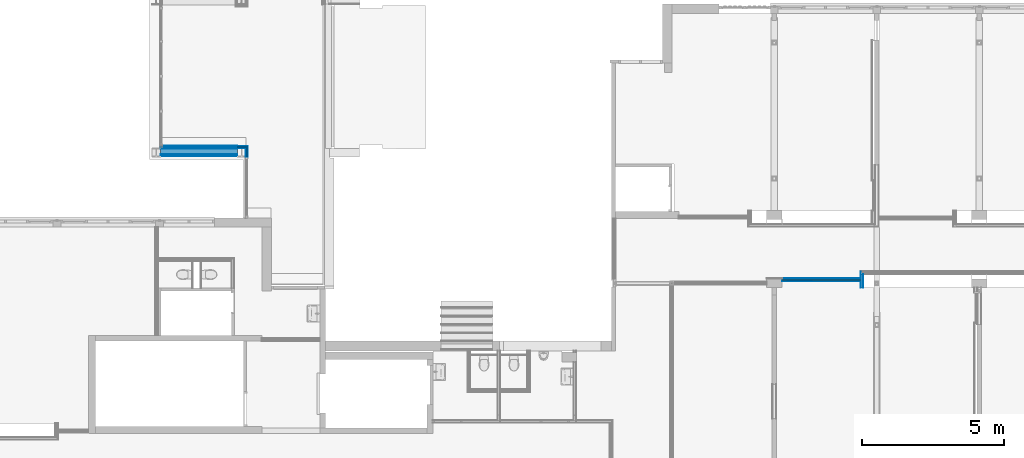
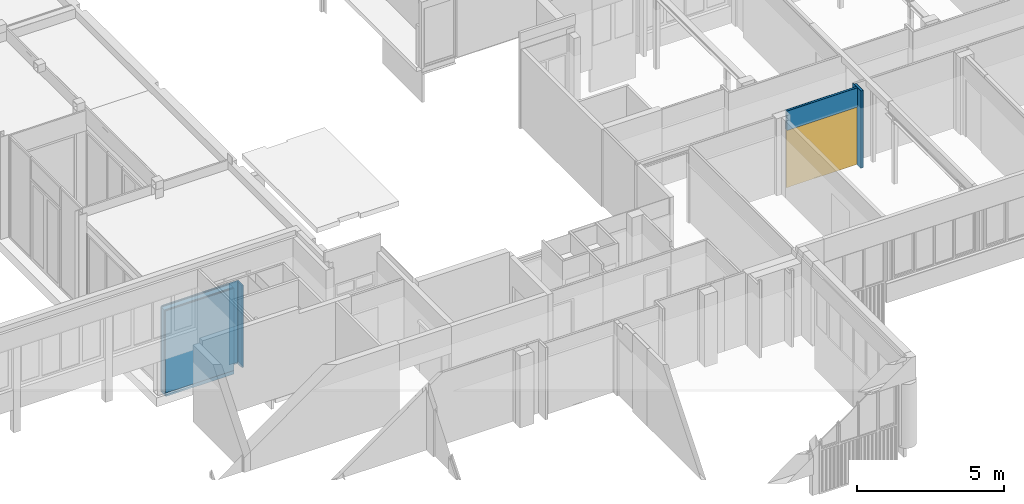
# One storey, part 62 of 99: 20 building element parts, 1 door, 1 opening, 5 elements without a shape of their own.
"""IFC2X3 building model written with IfcOpenShell, lengths in millimetres."""

from ifc_helpers import new_model, entity, si_unit, converted_unit, derived_unit, money_unit, direction, frame, origin_with_axes, place, context, subcontext, project, spatial, open_shell, faceted_brep, surface_model, material, type_object, element, fill, aggregate, save


model = new_model("IFC2X3")

# Units and contexts
model_context = context("Model", 3, precision=0.01, world=origin_with_axes(), true_north=direction((0.0, 1.0)))
body_context = subcontext(model_context, "Body", "Model", "MODEL_VIEW")
ifc_project = project(units=[si_unit("LENGTHUNIT", "METRE", prefix="MILLI"), si_unit("AREAUNIT", "SQUARE_METRE"), si_unit("VOLUMEUNIT", "CUBIC_METRE"), converted_unit("PLANEANGLEUNIT", "DEGREE", entity("IfcPlaneAngleMeasure", 0.0174532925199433), si_unit("PLANEANGLEUNIT", "RADIAN"), dimensions=[0, 0, 0, 0, 0, 0, 0]), money_unit("EUR"), converted_unit("TIMEUNIT", "Year", entity("IfcTimeMeasure", 31557600.0), si_unit("TIMEUNIT", "SECOND"), dimensions=[0, 0, 1, 0, 0, 0, 0]), si_unit("MASSUNIT", "GRAM", prefix="KILO"), si_unit("THERMODYNAMICTEMPERATUREUNIT", "DEGREE_CELSIUS"), si_unit("LUMINOUSINTENSITYUNIT", "LUMEN"), si_unit("ENERGYUNIT", "JOULE", prefix="MEGA"), derived_unit("THERMALCONDUCTANCEUNIT", [(si_unit("POWERUNIT", "WATT"), 1), (si_unit("LENGTHUNIT", "METRE"), -1), (si_unit("THERMODYNAMICTEMPERATUREUNIT", "KELVIN"), -1)]), derived_unit("SPECIFICHEATCAPACITYUNIT", [(si_unit("ENERGYUNIT", "JOULE"), 1), (si_unit("MASSUNIT", "GRAM", prefix="KILO"), -1), (si_unit("THERMODYNAMICTEMPERATUREUNIT", "KELVIN"), -1)]), derived_unit("MASSDENSITYUNIT", [(si_unit("MASSUNIT", "GRAM", prefix="KILO"), 1), (si_unit("VOLUMEUNIT", "CUBIC_METRE"), -1)])], contexts=[model_context])

# Site, building, storey
site_placement = place(None, origin_with_axes())
site = spatial("IfcSite", under=ifc_project, at=site_placement, Name="Site", CompositionType="ELEMENT")
building_placement = place(site_placement, origin_with_axes())
building = spatial("IfcBuilding", under=site, at=building_placement, Name="Naam gebouw", CompositionType="ELEMENT")
storey_placement = place(building_placement, frame((0.0, 0.0, 7650.0), z_axis=(0.0, 0.0, 1.0), x_axis=(1.0, 0.0, 0.0)))
storey = spatial("IfcBuildingStorey", under=building, at=storey_placement, Name="2e verdieping N", CompositionType="ELEMENT", Elevation=7650.0)

# Door
door_style = type_object("IfcDoorStyle", Name="D1 zl2 27", ConstructionType="NOTDEFINED", OperationType="USERDEFINED", ParameterTakesPrecedence=False, Sizeable=False)
wall_5_placement = place(storey_placement, frame((36269.99999999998, 18145.9124251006, 0.0), z_axis=(0.0, 0.0, 1.0), x_axis=(1.0, 0.0, 0.0)))
opening_placement = place(wall_5_placement, frame((1380.000000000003, 0.0, 0.0), z_axis=(0.0, 0.0, 1.0), x_axis=(1.0, 0.0, 0.0)))
door_placement = place(opening_placement, frame((1380.000000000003, 0.0, 0.0), z_axis=(0.0, 0.0, 1.0), x_axis=(-1.0, 0.0, 0.0)))
door = element("IfcDoor", 1, at=door_placement, inside=storey, type_object=door_style, Name="_Merk-x", ObjectType="DOOR", OverallHeight=2400.0, OverallWidth=2760.0, context=body_context, shape_type="SurfaceModel", body=[
    faceted_brep([(0.0, 10.00000000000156, 0.0), (30.00000000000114, 10.00000000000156, 0.0), (30.00000000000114, -9.99999999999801, 0.0), (0.0, -9.99999999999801, 0.0), (0.0, 10.00000000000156, 2369.999999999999), (30.00000000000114, 10.00000000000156, 2369.999999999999), (30.00000000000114, 10.00000000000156, 30.00000000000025), (30.00000000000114, -9.99999999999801, 30.00000000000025), (30.00000000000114, -9.99999999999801, 2369.999999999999), (0.0, -9.99999999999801, 2369.999999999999)], [[[0, 1, 2, 3]], [[0, 4, 5, 6, 1]], [[1, 6, 7, 2]], [[3, 2, 7, 8, 9]], [[4, 0, 3, 9]], [[5, 4, 9, 8]], [[6, 5, 8, 7]]]),
    faceted_brep([(1700.000000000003, -8.999999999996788, 0.0), (1700.000000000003, -9.000000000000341, 2369.999999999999), (1700.000000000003, -9.99999999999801, 2369.999999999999), (1700.000000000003, -9.99999999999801, 0.0), (1683.000000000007, -9.000000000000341, 2369.999999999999), (1683.000000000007, -8.999999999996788, 0.0), (1683.000000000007, 10.00000000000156, 2369.999999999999), (1670.000000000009, 10.00000000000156, 2369.999999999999), (1670.000000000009, -9.99999999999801, 2369.999999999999), (1670.000000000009, -9.99999999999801, 0.0), (1670.000000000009, -9.99999999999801, 30.00000000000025), (1670.000000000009, 10.00000000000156, 0.0), (1683.000000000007, 10.00000000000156, 0.0), (1670.000000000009, 10.00000000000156, 30.00000000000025)], [[[0, 1, 2, 3]], [[4, 1, 0, 5]], [[4, 6, 7, 8, 2, 1]], [[9, 3, 2, 8, 10]], [[5, 0, 3, 9, 11, 12]], [[6, 4, 5, 12]], [[6, 12, 11, 13, 7]], [[13, 10, 8, 7]], [[11, 9, 10, 13]]]),
    faceted_brep([(30.00000000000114, 10.00000000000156, 30.00000000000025), (30.00000000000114, 10.00000000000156, 0.0), (30.00000000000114, -9.99999999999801, 0.0), (30.00000000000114, -9.99999999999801, 30.00000000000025), (1670.000000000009, 10.00000000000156, 30.00000000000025), (1670.000000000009, 10.00000000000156, 0.0), (1670.000000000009, -9.99999999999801, 0.0), (1670.000000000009, -9.99999999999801, 30.00000000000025)], [[[0, 1, 2, 3]], [[0, 4, 5, 1]], [[1, 5, 6, 2]], [[3, 2, 6, 7]], [[4, 0, 3, 7]], [[5, 4, 7, 6]]]),
    faceted_brep([(2760.000000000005, 10.00000000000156, 0.0), (2760.000000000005, 10.00000000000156, 2369.999999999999), (2760.000000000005, -9.99999999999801, 2369.999999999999), (2760.000000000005, -9.99999999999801, 0.0), (2730.000000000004, 10.00000000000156, 0.0), (2730.000000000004, 10.00000000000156, 30.00000000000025), (2730.000000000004, 10.00000000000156, 2369.999999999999), (2730.000000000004, -9.99999999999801, 2369.999999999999), (2730.000000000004, -9.99999999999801, 30.00000000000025), (2730.000000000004, -9.99999999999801, 0.0)], [[[0, 1, 2, 3]], [[0, 4, 5, 6, 1]], [[1, 6, 7, 2]], [[3, 2, 7, 8, 9]], [[4, 0, 3, 9]], [[5, 4, 9, 8]], [[6, 5, 8, 7]]]),
    faceted_brep([(2617.000000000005, -9.000000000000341, 2369.999999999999), (2600.000000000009, -9.000000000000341, 2369.999999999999), (2600.000000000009, -9.99999999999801, 2369.999999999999), (2630.000000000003, -9.99999999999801, 2369.999999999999), (2630.000000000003, 10.00000000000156, 2369.999999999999), (2617.000000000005, 10.00000000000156, 2369.999999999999), (2617.000000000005, -9.000000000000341, 0.0), (2600.000000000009, -9.000000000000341, 0.0), (2600.000000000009, -9.99999999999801, 0.0), (2630.000000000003, -9.99999999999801, 0.0), (2630.000000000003, -9.99999999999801, 30.00000000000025), (2630.000000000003, 10.00000000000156, 30.00000000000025), (2617.000000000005, 10.00000000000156, 0.0), (2630.000000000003, 10.00000000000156, 0.0)], [[[0, 1, 2, 3, 4, 5]], [[1, 0, 6, 7]], [[1, 7, 8, 2]], [[8, 9, 10, 3, 2]], [[4, 3, 10, 11]], [[12, 5, 4, 11, 13]], [[0, 5, 12, 6]], [[6, 12, 13, 9, 8, 7]], [[11, 10, 9, 13]]]),
    faceted_brep([(2630.000000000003, 10.00000000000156, 30.00000000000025), (2630.000000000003, 10.00000000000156, 0.0), (2630.000000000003, -9.99999999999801, 0.0), (2630.000000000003, -9.99999999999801, 30.00000000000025), (2730.000000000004, 10.00000000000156, 30.00000000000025), (2730.000000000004, 10.00000000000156, 0.0), (2730.000000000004, -9.99999999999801, 0.0), (2730.000000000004, -9.99999999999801, 30.00000000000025)], [[[0, 1, 2, 3]], [[0, 4, 5, 1]], [[1, 5, 6, 2]], [[3, 2, 6, 7]], [[4, 0, 3, 7]], [[5, 4, 7, 6]]]),
    faceted_brep([(1683.000000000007, 10.00000000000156, 2387.0), (1683.000000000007, 10.00000000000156, 2369.999999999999), (1670.000000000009, 10.00000000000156, 2369.999999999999), (30.00000000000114, 10.00000000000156, 2369.999999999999), (0.0, 10.00000000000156, 2369.999999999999), (0.0, 10.00000000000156, 2400.0), (2760.000000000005, 10.00000000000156, 2400.0), (2760.000000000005, 10.00000000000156, 2369.999999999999), (2730.000000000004, 10.00000000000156, 2369.999999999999), (2630.000000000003, 10.00000000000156, 2369.999999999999), (2617.000000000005, 10.00000000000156, 2369.999999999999), (2617.000000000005, 10.00000000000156, 2387.0), (1683.000000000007, -9.000000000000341, 2387.0), (1683.000000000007, -9.000000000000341, 2369.999999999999), (2600.000000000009, -9.000000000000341, 2369.999999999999), (2600.000000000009, -9.99999999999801, 2369.999999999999), (1700.000000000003, -9.99999999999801, 2369.999999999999), (1670.000000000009, -9.99999999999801, 2369.999999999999), (30.00000000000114, -9.99999999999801, 2369.999999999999), (0.0, -9.99999999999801, 2369.999999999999), (0.0, -9.99999999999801, 2400.0), (2760.000000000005, -9.99999999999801, 2400.0), (2760.000000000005, -9.99999999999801, 2369.999999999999), (2730.000000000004, -9.99999999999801, 2369.999999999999), (2617.000000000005, -9.000000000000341, 2369.999999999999), (2630.000000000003, -9.99999999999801, 2369.999999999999), (2617.000000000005, -9.000000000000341, 2387.0)], [[[0, 1, 2, 3, 4, 5, 6, 7, 8, 9, 10, 11]], [[1, 0, 12, 13]], [[13, 14, 15, 16, 17, 2, 1]], [[2, 17, 18, 3]], [[3, 18, 19, 4]], [[4, 19, 20, 5]], [[5, 20, 21, 6]], [[6, 21, 22, 7]], [[7, 22, 23, 8]], [[24, 10, 9, 8, 23, 25, 15, 14]], [[11, 10, 24, 26]], [[0, 11, 26, 12]], [[24, 14, 13, 12, 26]], [[23, 22, 21, 20, 19, 18, 17, 16, 15, 25]]]),
    faceted_brep([(2617.000000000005, 1.000000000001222, 0.0), (2617.000000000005, -9.000000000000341, 0.0), (1683.000000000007, -8.999999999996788, 0.0), (1683.000000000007, 1.000000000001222, 0.0), (2617.000000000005, 1.000000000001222, 2387.0), (2617.000000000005, -9.000000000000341, 2387.0), (1683.000000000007, -9.000000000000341, 2387.0), (1683.000000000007, 1.000000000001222, 2387.0)], [[[0, 1, 2, 3]], [[4, 5, 1, 0]], [[1, 5, 6, 2]], [[3, 2, 6, 7]], [[0, 3, 7, 4]], [[7, 6, 5, 4]]]),
    surface_model("IfcShellBasedSurfaceModel", [(30.00000000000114, 9.000000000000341, 30.00000000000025), (30.00000000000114, 9.000000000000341, 2369.999999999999), (1670.000000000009, 9.000000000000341, 2369.999999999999), (1670.000000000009, 9.000000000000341, 30.00000000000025)], [open_shell([[[0, 1, 2, 3]]])]),
    surface_model("IfcShellBasedSurfaceModel", [(30.00000000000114, 1.000000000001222, 30.00000000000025), (1670.000000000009, 1.000000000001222, 30.00000000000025), (1670.000000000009, 1.000000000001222, 2369.999999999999), (30.00000000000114, 1.000000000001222, 2369.999999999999)], [open_shell([[[0, 1, 2, 3]]])]),
    surface_model("IfcShellBasedSurfaceModel", [(2630.000000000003, 9.000000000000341, 30.00000000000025), (2630.000000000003, 9.000000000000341, 2369.999999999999), (2730.000000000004, 9.000000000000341, 2369.999999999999), (2730.000000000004, 9.000000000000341, 30.00000000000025)], [open_shell([[[0, 1, 2, 3]]])]),
    surface_model("IfcShellBasedSurfaceModel", [(2630.000000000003, 1.000000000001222, 30.00000000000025), (2730.000000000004, 1.000000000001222, 30.00000000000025), (2730.000000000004, 1.000000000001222, 2369.999999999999), (2630.000000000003, 1.000000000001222, 2369.999999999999)], [open_shell([[[0, 1, 2, 3]]])]),
])

# Wall, building element parts
wall_type_1 = type_object("IfcWallType", Name="Basic Wall:31_WA_ALU_PANEEL", PredefinedType="STANDARD")
wall_1_placement = place(storey_placement, frame((17473.50000001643, 22808.41242626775, -3500.0), z_axis=(0.0, 0.0, 1.0), x_axis=(-1.0, 0.0, 0.0)))
wall_1 = element("IfcWall", 2, at=wall_1_placement, inside=storey, type_object=wall_type_1, Name="Basic Wall:31_WA_ALU_PANEEL")
ifc_material_1 = material(Name="isolatie_080_1-100")
building_element_part_1_placement = place(wall_1_placement, origin_with_axes())
building_element_part_1 = element("IfcBuildingElementPart", 3, at=building_element_part_1_placement, material=ifc_material_1, Name="isolatie_080_1-100", context=body_context, shape_type="Brep", body=[
    faceted_brep([(332.4999999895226, 30.00000002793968, 0.0), (332.4999999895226, -29.99999997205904, 0.0), (30.00000003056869, -29.99999997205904, 0.0), (30.00000002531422, 30.00000002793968, 0.0), (332.4999999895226, 30.00000002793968, 3399.999999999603), (332.4999999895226, -29.99999997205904, 3399.999999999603), (30.00000003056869, -29.99999997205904, 3399.999999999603), (30.00000002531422, 30.00000002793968, 3399.999999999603)], [[[0, 1, 2, 3]], [[0, 4, 5, 1]], [[1, 5, 6, 2]], [[3, 2, 6, 7]], [[4, 0, 3, 7]], [[5, 4, 7, 6]]]),
])
ifc_material_2 = material(Name="Aluminum geanodiseerd RAL 7024")
building_element_part_2_placement = place(wall_1_placement, origin_with_axes())
building_element_part_2 = element("IfcBuildingElementPart", 4, at=building_element_part_2_placement, material=ifc_material_2, Name="Aluminum geanodiseerd RAL 7024", context=body_context, shape_type="Brep", body=[
    faceted_brep([(332.4999999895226, -29.99999997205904, 0.0), (332.4999999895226, -32.49999997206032, 0.0), (-29.99999996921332, -32.49999997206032, 0.0), (-29.99999996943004, -29.99999997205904, 0.0), (332.4999999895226, -29.99999997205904, 3399.999999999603), (332.4999999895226, -32.49999997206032, 3399.999999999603), (-29.99999996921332, -32.49999997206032, 3399.999999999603), (-29.99999996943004, -29.99999997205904, 3399.999999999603)], [[[0, 1, 2, 3]], [[0, 4, 5, 1]], [[1, 5, 6, 2]], [[3, 2, 6, 7]], [[4, 0, 3, 7]], [[5, 4, 7, 6]]]),
])
building_element_part_3_placement = place(wall_1_placement, origin_with_axes())
building_element_part_3 = element("IfcBuildingElementPart", 5, at=building_element_part_3_placement, material=ifc_material_2, Name="Aluminum geanodiseerd RAL 7024", context=body_context, shape_type="Brep", body=[
    faceted_brep([(332.4999999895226, 32.50000002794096, 0.0), (332.4999999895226, 30.00000002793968, 0.0), (32.5000000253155, 30.00000002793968, 0.0), (32.50000002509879, 32.50000002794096, 0.0), (332.4999999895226, 32.50000002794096, 3399.999999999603), (332.4999999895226, 30.00000002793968, 3399.999999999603), (32.5000000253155, 30.00000002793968, 3399.999999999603), (32.50000002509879, 32.50000002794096, 3399.999999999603)], [[[0, 1, 2, 3]], [[0, 4, 5, 1]], [[1, 5, 6, 2]], [[3, 2, 6, 7]], [[4, 0, 3, 7]], [[5, 4, 7, 6]]]),
])
aggregate(wall_1, [building_element_part_1, building_element_part_2, building_element_part_3])

wall_2_placement = place(storey_placement, frame((17473.50000004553, 22475.91242630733, -3500.0), z_axis=(0.0, 0.0, 1.0), x_axis=(0.0, 1.0, 0.0)))
wall_2 = element("IfcWall", 6, at=wall_2_placement, inside=storey, type_object=wall_type_1, Name="Basic Wall:31_WA_ALU_PANEEL")
building_element_part_4_placement = place(wall_2_placement, origin_with_axes())
building_element_part_4 = element("IfcBuildingElementPart", 7, at=building_element_part_4_placement, material=ifc_material_2, Name="Aluminum geanodiseerd RAL 7024", context=body_context, shape_type="Brep", body=[
    faceted_brep([(302.4999999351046, 30.0000000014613, 0.0), (2.62545540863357e-09, 30.00000002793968, 0.0), (2.845723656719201e-09, 32.50000002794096, 0.0), (302.4999999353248, 32.50000000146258, 0.0), (302.4999999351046, 30.0000000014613, 3399.999999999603), (2.62545540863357e-09, 30.00000002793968, 3399.999999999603), (2.845723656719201e-09, 32.50000002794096, 3399.999999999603), (302.4999999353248, 32.50000000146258, 3399.999999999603)], [[[0, 1, 2, 3]], [[4, 5, 1, 0]], [[2, 1, 5, 6]], [[3, 2, 6, 7]], [[3, 7, 4, 0]], [[7, 6, 5, 4]]]),
])
building_element_part_5_placement = place(wall_2_placement, origin_with_axes())
building_element_part_5 = element("IfcBuildingElementPart", 8, at=building_element_part_5_placement, material=ifc_material_2, Name="Aluminum geanodiseerd RAL 7024", context=body_context, shape_type="Brep", body=[
    faceted_brep([(364.9999999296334, -32.50000000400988, 0.0), (-2.845723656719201e-09, -32.49999997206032, 0.0), (-2.62545540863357e-09, -29.99999997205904, 0.0), (364.9999999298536, -30.0000000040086, 0.0), (364.9999999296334, -32.50000000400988, 3399.999999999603), (-2.845723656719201e-09, -32.49999997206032, 3399.999999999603), (-2.62545540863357e-09, -29.99999997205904, 3399.999999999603), (364.9999999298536, -30.0000000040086, 3399.999999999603)], [[[0, 1, 2, 3]], [[4, 5, 1, 0]], [[2, 1, 5, 6]], [[3, 2, 6, 7]], [[3, 7, 4, 0]], [[7, 6, 5, 4]]]),
])
building_element_part_6_placement = place(wall_2_placement, origin_with_axes())
building_element_part_6 = element("IfcBuildingElementPart", 9, at=building_element_part_6_placement, material=ifc_material_1, Name="isolatie_080_1-100", context=body_context, shape_type="Brep", body=[
    faceted_brep([(362.4999999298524, -30.00000000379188, 0.0), (-2.62545540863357e-09, -29.99999997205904, 0.0), (2.62545540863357e-09, 30.00000002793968, 0.0), (362.4999999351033, 29.99999999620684, 0.0), (362.4999999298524, -30.00000000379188, 3399.999999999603), (-2.62545540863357e-09, -29.99999997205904, 3399.999999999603), (2.62545540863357e-09, 30.00000002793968, 3399.999999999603), (362.4999999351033, 29.99999999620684, 3399.999999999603)], [[[0, 1, 2, 3]], [[4, 5, 1, 0]], [[2, 1, 5, 6]], [[3, 2, 6, 7]], [[3, 7, 4, 0]], [[7, 6, 5, 4]]]),
])
aggregate(wall_2, [building_element_part_4, building_element_part_5, building_element_part_6])

wall_type_2 = type_object("IfcWallType", Name="Basic Wall:41_WA_houten delen vert HSB 365 breed", PredefinedType="STANDARD")
wall_3_placement = place(storey_placement, frame((14474.50000006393, 22666.41242633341, -3669.999999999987), z_axis=(0.0, 0.0, 1.0), x_axis=(1.0, 0.0, 0.0)))
wall_3 = element("IfcWall", 10, at=wall_3_placement, inside=storey, type_object=wall_type_2, Name="Basic Wall:41_WA_houten delen vert HSB 365 breed")
ifc_material_3 = material(Name="Houten delen vert")
building_element_part_7_placement = place(wall_3_placement, origin_with_axes())
building_element_part_7 = element("IfcBuildingElementPart", 11, at=building_element_part_7_placement, material=ifc_material_3, Name="Houten delen vert", context=body_context, shape_type="Brep", body=[
    faceted_brep([(0.0, 184.5000000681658, 169.999999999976), (30.00000000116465, 184.5000000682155, 169.999999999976), (30.00000000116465, 184.5000000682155, 3569.999999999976), (2666.49999996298, 184.5000000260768, 3569.999999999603), (2666.49999996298, 184.5000000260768, 0.0), (0.0, 184.5000000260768, 0.0), (0.0, 159.5000000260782, 169.999999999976), (30.00000000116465, 159.5000000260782, 169.9999999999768), (30.00000000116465, 159.5000000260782, 3569.99999999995), (2666.49999996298, 159.5000000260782, 3569.999999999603), (2666.49999996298, 159.5000000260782, 0.0), (0.0, 159.5000000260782, 0.0)], [[[0, 1, 2, 3, 4, 5]], [[1, 0, 6, 7]], [[8, 2, 1, 7]], [[2, 8, 9, 3]], [[9, 10, 4, 3]], [[10, 11, 5, 4]], [[6, 0, 5, 11]], [[7, 6, 11, 10, 9, 8]]]),
])
ifc_material_4 = material(Name="luchtspouw")
building_element_part_8_placement = place(wall_3_placement, origin_with_axes())
building_element_part_8 = element("IfcBuildingElementPart", 12, at=building_element_part_8_placement, material=ifc_material_4, Name="luchtspouw", context=body_context, shape_type="Brep", body=[
    faceted_brep([(0.0, 159.5000000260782, 169.999999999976), (30.00000000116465, 159.5000000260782, 169.9999999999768), (30.00000000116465, 159.5000000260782, 3569.99999999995), (2666.49999996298, 159.5000000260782, 3569.999999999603), (2666.49999996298, 159.5000000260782, 0.0), (0.0, 159.5000000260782, 0.0), (0.0, 137.5000000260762, 169.999999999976), (30.00000000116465, 137.5000000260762, 169.9999999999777), (30.00000000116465, 137.5000000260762, 3569.999999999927), (2666.49999996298, 137.5000000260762, 3569.999999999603), (2666.49999996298, 137.5000000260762, 0.0), (0.0, 137.5000000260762, 0.0)], [[[0, 1, 2, 3, 4, 5]], [[1, 0, 6, 7]], [[8, 2, 1, 7]], [[2, 8, 9, 3]], [[9, 10, 4, 3]], [[10, 11, 5, 4]], [[6, 0, 5, 11]], [[7, 6, 11, 10, 9, 8]]]),
])
building_element_part_9_placement = place(wall_3_placement, origin_with_axes())
building_element_part_9 = element("IfcBuildingElementPart", 13, at=building_element_part_9_placement, material=ifc_material_4, Name="luchtspouw", context=body_context, shape_type="Brep", body=[
    faceted_brep([(0.0, 137.5000000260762, 169.9999981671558), (-32.49998211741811, 137.5000000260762, 169.9999999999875), (-32.49998211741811, 137.5000000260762, 3569.99999999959), (2666.49999996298, 137.5000000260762, 3569.999999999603), (2666.49999996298, 137.5000000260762, 0.0), (0.0, 137.5000000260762, 0.0), (0.0, 109.5000000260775, 169.9999981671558), (-32.49998211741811, 109.5000000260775, 169.9999999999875), (-32.49998211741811, 109.5000000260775, 3569.99999999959), (2666.49999996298, 109.5000000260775, 3569.999999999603), (2666.49999996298, 109.5000000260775, 0.0), (0.0, 109.5000000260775, 0.0)], [[[0, 1, 2, 3, 4, 5]], [[6, 7, 1, 0]], [[7, 8, 2, 1]], [[3, 2, 8, 9]], [[9, 10, 4, 3]], [[10, 11, 5, 4]], [[6, 0, 5, 11]], [[9, 8, 7, 6, 11, 10]]]),
])
ifc_material_5 = material(Name="isolatie")
building_element_part_10_placement = place(wall_3_placement, origin_with_axes())
building_element_part_10 = element("IfcBuildingElementPart", 14, at=building_element_part_10_placement, material=ifc_material_5, Name="isolatie", context=body_context, shape_type="Brep", body=[
    faceted_brep([(0.0, 90.50000002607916, 169.9999981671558), (-32.49998211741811, 90.50000002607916, 169.9999999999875), (-32.49998211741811, 90.50000002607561, 3569.99999999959), (2666.49999996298, 90.50000002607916, 3569.999999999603), (2666.49999996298, 90.50000002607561, 0.0), (0.0, 90.50000002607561, 0.0), (0.0, -109.4999999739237, 169.9999981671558), (-32.49998211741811, -109.4999999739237, 169.9999999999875), (-32.49998211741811, -109.4999999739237, 3569.99999999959), (2666.49999996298, -109.4999999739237, 3569.999999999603), (2666.49999996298, -109.4999999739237, 0.0), (0.0, -109.4999999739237, 0.0)], [[[0, 1, 2, 3, 4, 5]], [[6, 7, 1, 0]], [[7, 8, 2, 1]], [[3, 2, 8, 9]], [[9, 10, 4, 3]], [[10, 11, 5, 4]], [[6, 0, 5, 11]], [[9, 8, 7, 6, 11, 10]]]),
])
building_element_part_11_placement = place(wall_3_placement, origin_with_axes())
building_element_part_11 = element("IfcBuildingElementPart", 15, at=building_element_part_11_placement, material=ifc_material_4, Name="luchtspouw", context=body_context, shape_type="Brep", body=[
    faceted_brep([(0.0, -109.4999999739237, 169.9999981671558), (-32.49998211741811, -109.4999999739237, 169.9999999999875), (-32.49998211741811, -109.4999999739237, 3569.99999999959), (2666.49999996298, -109.4999999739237, 3569.999999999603), (2666.49999996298, -109.4999999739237, 0.0), (0.0, -109.4999999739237, 0.0), (0.0, -137.4999999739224, 169.9999981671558), (-32.49998211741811, -137.4999999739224, 169.9999999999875), (-32.49998211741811, -137.4999999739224, 3569.99999999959), (2666.49999996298, -137.4999999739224, 3569.999999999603), (2666.49999996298, -137.4999999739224, 0.0), (0.0, -137.4999999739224, 0.0)], [[[0, 1, 2, 3, 4, 5]], [[6, 7, 1, 0]], [[7, 8, 2, 1]], [[3, 2, 8, 9]], [[9, 10, 4, 3]], [[10, 11, 5, 4]], [[6, 0, 5, 11]], [[9, 8, 7, 6, 11, 10]]]),
])
building_element_part_12_placement = place(wall_3_placement, origin_with_axes())
building_element_part_12 = element("IfcBuildingElementPart", 16, at=building_element_part_12_placement, material=ifc_material_4, Name="luchtspouw", context=body_context, shape_type="Brep", body=[
    faceted_brep([(0.0, -137.4999999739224, 169.9999981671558), (-32.49998211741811, -137.4999999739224, 169.9999999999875), (-32.49998211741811, -137.4999999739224, 3569.99999999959), (2666.49999996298, -137.4999999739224, 3569.999999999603), (2666.49999996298, -137.4999999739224, 0.0), (0.0, -137.4999999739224, 0.0), (0.0, -159.4999999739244, 169.9999981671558), (-32.49998211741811, -159.4999999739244, 169.9999999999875), (-32.49998211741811, -159.4999999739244, 3569.99999999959), (2666.49999996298, -159.4999999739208, 3569.999999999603), (2666.49999996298, -159.4999999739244, 0.0), (0.0, -159.4999999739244, 0.0)], [[[0, 1, 2, 3, 4, 5]], [[6, 7, 1, 0]], [[7, 8, 2, 1]], [[3, 2, 8, 9]], [[9, 10, 4, 3]], [[10, 11, 5, 4]], [[6, 0, 5, 11]], [[9, 8, 7, 6, 11, 10]]]),
])
ifc_material_6 = material(Name="Oriented Strand Board")
building_element_part_13_placement = place(wall_3_placement, origin_with_axes())
building_element_part_13 = element("IfcBuildingElementPart", 17, at=building_element_part_13_placement, material=ifc_material_6, Name="Oriented Strand Board", context=body_context, shape_type="Brep", body=[
    faceted_brep([(0.0, 109.5000000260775, 169.9999981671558), (-32.49998211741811, 109.5000000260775, 169.9999999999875), (-32.49998211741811, 109.5000000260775, 3569.99999999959), (2666.49999996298, 109.5000000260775, 3569.999999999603), (2666.49999996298, 109.5000000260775, 0.0), (0.0, 109.5000000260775, 0.0), (0.0, 90.50000002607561, 169.9999981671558), (-32.49998211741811, 90.50000002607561, 169.9999999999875), (-32.49998211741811, 90.50000002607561, 3569.99999999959), (2666.49999996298, 90.50000002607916, 3569.999999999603), (2666.49999996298, 90.50000002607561, 0.0), (0.0, 90.50000002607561, 0.0)], [[[0, 1, 2, 3, 4, 5]], [[6, 7, 1, 0]], [[7, 8, 2, 1]], [[3, 2, 8, 9]], [[9, 10, 4, 3]], [[10, 11, 5, 4]], [[6, 0, 5, 11]], [[9, 8, 7, 6, 11, 10]]]),
])
building_element_part_14_placement = place(wall_3_placement, origin_with_axes())
building_element_part_14 = element("IfcBuildingElementPart", 18, at=building_element_part_14_placement, material=ifc_material_3, Name="Houten delen vert", context=body_context, shape_type="Brep", body=[
    faceted_brep([(2666.49999996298, -184.499999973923, 3569.999999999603), (2666.49999996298, -184.499999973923, 169.9999999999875), (2666.49999996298, -159.4999999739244, 169.9999999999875), (2666.49999996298, -159.4999999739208, 3569.999999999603), (-32.49998211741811, -184.499999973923, 169.9999999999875), (0.0, -184.499999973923, 169.9999999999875), (-32.49998211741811, -184.499999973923, 3569.99999999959), (-32.49998211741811, -159.4999999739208, 169.9999999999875), (-32.49998211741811, -159.4999999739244, 3569.99999999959)], [[[0, 1, 2, 3]], [[4, 5, 1, 0, 6]], [[7, 2, 1, 5, 4]], [[3, 2, 7, 8]], [[0, 3, 8, 6]], [[7, 4, 6, 8]]]),
])
aggregate(wall_3, [building_element_part_7, building_element_part_8, building_element_part_9, building_element_part_10, building_element_part_11, building_element_part_12, building_element_part_13, building_element_part_14])

wall_type_3 = type_object("IfcWallType", Name="Metalstud iso 100 100", PredefinedType="NOTDEFINED")
wall_4_placement = place(storey_placement, frame((39129.99999999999, 17870.91242510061, 0.0), z_axis=(0.0, 0.0, 1.0), x_axis=(0.0, 1.0, 0.0)))
wall_4 = element("IfcWall", 19, at=wall_4_placement, inside=storey, type_object=wall_type_3, Name="_Wand-x")
ifc_material_7 = material(Name="Gipsplaat")
building_element_part_15_placement = place(wall_4_placement, origin_with_axes())
building_element_part_15 = element("IfcBuildingElementPart", 20, at=building_element_part_15_placement, material=ifc_material_7, Name="Gipsplaat", context=body_context, shape_type="Brep", body=[
    faceted_brep([(562.499999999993, 100.0000000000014, 3199.999999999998), (0.0, 100.0000000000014, 3199.999999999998), (0.0, 87.49999999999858, 3199.999999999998), (562.499999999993, 87.49999999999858, 3199.999999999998), (562.499999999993, 100.0000000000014, 0.0), (0.0, 100.0000000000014, 0.0), (0.0, 87.49999999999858, 0.0), (562.499999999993, 87.49999999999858, 0.0)], [[[0, 1, 2, 3]], [[4, 5, 1, 0]], [[2, 1, 5, 6]], [[3, 2, 6, 7]], [[3, 7, 4, 0]], [[7, 6, 5, 4]]]),
])
building_element_part_16_placement = place(wall_4_placement, origin_with_axes())
building_element_part_16 = element("IfcBuildingElementPart", 21, at=building_element_part_16_placement, material=ifc_material_7, Name="Gipsplaat", context=body_context, shape_type="Brep", body=[
    faceted_brep([(474.9999999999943, 12.50000000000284, 3199.999999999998), (0.0, 12.50000000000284, 3199.999999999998), (0.0, 0.0, 3199.999999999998), (474.9999999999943, 0.0, 3199.999999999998), (474.9999999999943, 12.50000000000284, 0.0), (0.0, 12.50000000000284, 0.0), (0.0, 0.0, 0.0), (474.9999999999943, 0.0, 0.0)], [[[0, 1, 2, 3]], [[4, 5, 1, 0]], [[2, 1, 5, 6]], [[3, 2, 6, 7]], [[3, 7, 4, 0]], [[7, 6, 5, 4]]]),
])
ifc_material_8 = material(Name="Isolatie - Steenwol LSW")
building_element_part_17_placement = place(wall_4_placement, origin_with_axes())
building_element_part_17 = element("IfcBuildingElementPart", 22, at=building_element_part_17_placement, material=ifc_material_8, Name="Isolatie - Steenwol LSW", context=body_context, shape_type="Brep", body=[
    faceted_brep([(487.4999999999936, 87.49999999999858, 3199.999999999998), (0.0, 87.49999999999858, 3199.999999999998), (0.0, 12.50000000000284, 3199.999999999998), (487.4999999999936, 12.50000000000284, 3199.999999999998), (487.4999999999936, 87.49999999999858, 0.0), (0.0, 87.49999999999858, 0.0), (0.0, 12.50000000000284, 0.0), (487.4999999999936, 12.50000000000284, 0.0)], [[[0, 1, 2, 3]], [[4, 5, 1, 0]], [[2, 1, 5, 6]], [[3, 2, 6, 7]], [[3, 7, 4, 0]], [[7, 6, 5, 4]]]),
])
aggregate(wall_4, [building_element_part_15, building_element_part_16, building_element_part_17])

# Wall, opening
wall_5 = element("IfcWall", 23, at=wall_5_placement, inside=storey, type_object=wall_type_3, Name="_Wand-x")
opening = element("IfcOpeningElement", 24, at=opening_placement, cuts=wall_5, Name="_Merk-x", context=body_context, shape_type="Brep", body=[
    faceted_brep([(1380.000000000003, -10.00000000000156, 0.0), (1380.000000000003, -10.00000000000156, 2400.0), (1380.000000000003, -51.00000000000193, 2400.0), (1380.000000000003, -51.00000000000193, 0.0), (1380.000000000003, 51.00000000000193, 0.0), (1380.000000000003, 51.00000000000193, 2400.0), (-1380.000000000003, -10.00000000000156, 2400.0), (-1380.000000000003, -51.00000000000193, 2400.0), (-1380.000000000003, 51.00000000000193, 2400.0), (-1380.000000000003, -51.00000000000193, 0.0), (-1380.000000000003, -10.00000000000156, 0.0), (-1380.000000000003, 51.00000000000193, 0.0)], [[[0, 1, 2, 3]], [[1, 0, 4, 5]], [[6, 7, 2, 1, 5, 8]], [[7, 9, 3, 2]], [[0, 3, 9, 10, 11, 4]], [[5, 4, 11, 8]], [[6, 10, 9, 7]], [[10, 6, 8, 11]]]),
])

fill(opening, door)

# Building element part
building_element_part_18_placement = place(wall_5_placement, origin_with_axes())
building_element_part_18 = element("IfcBuildingElementPart", 25, at=building_element_part_18_placement, material=ifc_material_7, Name="Gipsplaat", context=body_context, shape_type="Brep", body=[
    faceted_brep([(2760.000000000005, 37.50000000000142, 2400.0), (2760.000000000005, 50.00000000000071, 2400.0), (2760.000000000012, 50.00000000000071, 3199.999999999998), (2760.000000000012, 37.50000000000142, 3199.999999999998), (0.0, 50.00000000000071, 2400.0), (0.0, 37.50000000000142, 2400.0), (0.0, 50.00000000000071, 3199.999999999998), (0.0, 37.50000000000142, 3199.999999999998)], [[[0, 1, 2, 3]], [[4, 1, 0, 5]], [[1, 4, 6, 2]], [[2, 6, 7, 3]], [[5, 0, 3, 7]], [[4, 5, 7, 6]]]),
])

building_element_part_19_placement = place(wall_5_placement, origin_with_axes())
building_element_part_19 = element("IfcBuildingElementPart", 26, at=building_element_part_19_placement, material=ifc_material_7, Name="Gipsplaat", context=body_context, shape_type="Brep", body=[
    faceted_brep([(2760.000000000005, -50.00000000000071, 2400.0), (2760.000000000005, -37.49999999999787, 2400.0), (2760.000000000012, -37.49999999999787, 3199.999999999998), (2760.000000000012, -50.00000000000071, 3199.999999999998), (0.0, -37.50000000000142, 2400.0), (0.0, -50.00000000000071, 2400.0), (0.0, -37.50000000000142, 3199.999999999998), (0.0, -50.00000000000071, 3199.999999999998)], [[[0, 1, 2, 3]], [[4, 1, 0, 5]], [[1, 4, 6, 2]], [[3, 2, 6, 7]], [[5, 0, 3, 7]], [[4, 5, 7, 6]]]),
])

building_element_part_20_placement = place(wall_5_placement, origin_with_axes())
building_element_part_20 = element("IfcBuildingElementPart", 27, at=building_element_part_20_placement, material=ifc_material_8, Name="Isolatie - Steenwol LSW", context=body_context, shape_type="Brep", body=[
    faceted_brep([(2760.000000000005, -10.00000000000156, 2400.0), (2760.000000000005, 37.50000000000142, 2400.0), (2760.000000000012, 37.50000000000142, 3199.999999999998), (2760.000000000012, -37.49999999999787, 3199.999999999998), (2760.000000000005, -37.49999999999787, 2400.0), (0.0, -10.00000000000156, 2400.0), (0.0, 37.50000000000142, 2400.0), (0.0, -37.50000000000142, 2400.0), (0.0, 37.50000000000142, 3199.999999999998), (0.0, -37.50000000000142, 3199.999999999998)], [[[0, 1, 2, 3, 4]], [[5, 6, 1, 0, 4, 7]], [[1, 6, 8, 2]], [[2, 8, 9, 3]], [[4, 3, 9, 7]], [[6, 5, 7, 9, 8]]]),
])

aggregate(wall_5, [building_element_part_18, building_element_part_19, building_element_part_20])

save(model, "model.ifc")
